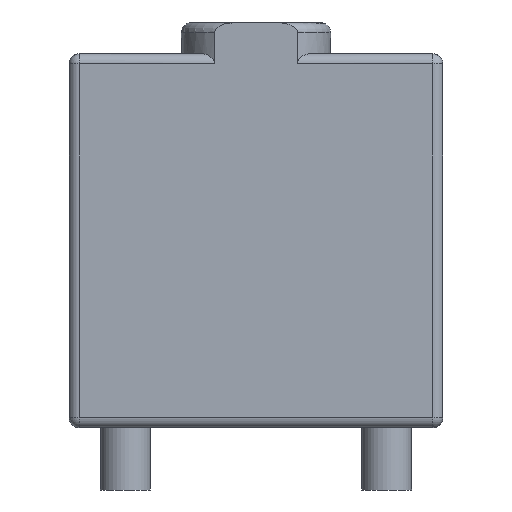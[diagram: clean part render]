
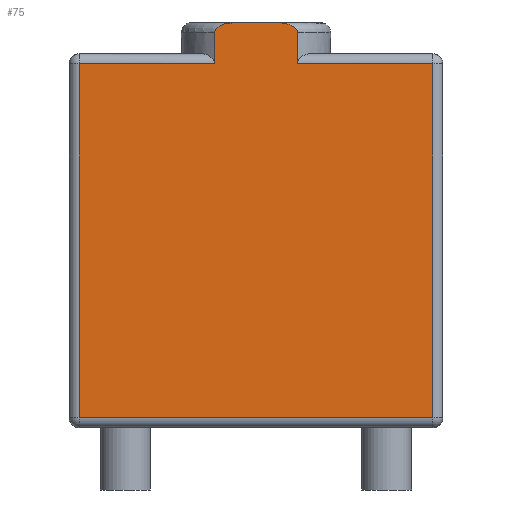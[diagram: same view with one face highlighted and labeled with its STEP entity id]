
A CAD part, front view. The second image highlights one B-rep face of the part: STEP entity #75.
In plain terms, the highlighted planar face has unit normal (0, -1, 0).
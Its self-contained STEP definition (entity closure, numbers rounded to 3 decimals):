
#75 = ADVANCED_FACE( '', ( #345 ), #346, .F. );
#345 = FACE_OUTER_BOUND( '', #975, .T. );
#346 = PLANE( '', #976 );
#975 = EDGE_LOOP( '', ( #1605, #1606, #1607, #1608, #1609, #1610, #1611, #1612, #1613, #1614 ) );
#976 = AXIS2_PLACEMENT_3D( '', #1615, #1616, #1617 );
#1605 = ORIENTED_EDGE( '', *, *, #3537, .F. );
#1606 = ORIENTED_EDGE( '', *, *, #3538, .T. );
#1607 = ORIENTED_EDGE( '', *, *, #3539, .T. );
#1608 = ORIENTED_EDGE( '', *, *, #3540, .T. );
#1609 = ORIENTED_EDGE( '', *, *, #3541, .T. );
#1610 = ORIENTED_EDGE( '', *, *, #3542, .T. );
#1611 = ORIENTED_EDGE( '', *, *, #3543, .T. );
#1612 = ORIENTED_EDGE( '', *, *, #3544, .T. );
#1613 = ORIENTED_EDGE( '', *, *, #3545, .F. );
#1614 = ORIENTED_EDGE( '', *, *, #3546, .T. );
#1615 = CARTESIAN_POINT( '', ( 0., 0., 0. ) );
#1616 = DIRECTION( '', ( 0., 1., 0. ) );
#1617 = DIRECTION( '', ( 0., 0., 1. ) );
#3537 = EDGE_CURVE( '', #4100, #4101, #4102, .T. );
#3538 = EDGE_CURVE( '', #4100, #4103, #4104, .T. );
#3539 = EDGE_CURVE( '', #4103, #4105, #4106, .T. );
#3540 = EDGE_CURVE( '', #4105, #4107, #4108, .F. );
#3541 = EDGE_CURVE( '', #4107, #4109, #4110, .F. );
#3542 = EDGE_CURVE( '', #4109, #4111, #4112, .F. );
#3543 = EDGE_CURVE( '', #4111, #4113, #4114, .F. );
#3544 = EDGE_CURVE( '', #4113, #4115, #4116, .F. );
#3545 = EDGE_CURVE( '', #4117, #4115, #4118, .T. );
#3546 = EDGE_CURVE( '', #4117, #4101, #4119, .T. );
#4100 = VERTEX_POINT( '', #5046 );
#4101 = VERTEX_POINT( '', #5047 );
#4102 = LINE( '', #5048, #5049 );
#4103 = VERTEX_POINT( '', #5050 );
#4104 = B_SPLINE_CURVE_WITH_KNOTS( '', 3, ( #5051, #5052, #5053, #5054, #5055, #5056, #5057, #5058, #5059, #5060, #5061, #5062 ), .UNSPECIFIED., .F., .F., ( 4, 2, 2, 2, 2, 4 ), ( 0., 0.001, 0.001, 0.002, 0.002, 0.002 ), .UNSPECIFIED. );
#4105 = VERTEX_POINT( '', #5063 );
#4106 = LINE( '', #5064, #5065 );
#4107 = VERTEX_POINT( '', #5066 );
#4108 = LINE( '', #5067, #5068 );
#4109 = VERTEX_POINT( '', #5069 );
#4110 = LINE( '', #5070, #5071 );
#4111 = VERTEX_POINT( '', #5072 );
#4112 = LINE( '', #5073, #5074 );
#4113 = VERTEX_POINT( '', #5075 );
#4114 = LINE( '', #5076, #5077 );
#4115 = VERTEX_POINT( '', #5078 );
#4116 = LINE( '', #5079, #5080 );
#4117 = VERTEX_POINT( '', #5081 );
#4118 = LINE( '', #5082, #5083 );
#4119 = B_SPLINE_CURVE_WITH_KNOTS( '', 3, ( #5084, #5085, #5086, #5087, #5088, #5089, #5090, #5091, #5092, #5093, #5094, #5095, #5096, #5097 ), .UNSPECIFIED., .F., .F., ( 4, 2, 2, 2, 2, 2, 4 ), ( 0., 0., 0.001, 0.001, 0.001, 0.002, 0.002 ), .UNSPECIFIED. );
#5046 = CARTESIAN_POINT( '', ( 13.572, 0., 32.5 ) );
#5047 = CARTESIAN_POINT( '', ( 16.428, 0., 32.5 ) );
#5048 = CARTESIAN_POINT( '', ( 11.683, 0., 32.5 ) );
#5049 = VECTOR( '', #6433, 1000. );
#5050 = CARTESIAN_POINT( '', ( 11.683, 0., 31.7 ) );
#5051 = CARTESIAN_POINT( '', ( 13.572, 0., 32.5 ) );
#5052 = CARTESIAN_POINT( '', ( 13.386, 0., 32.5 ) );
#5053 = CARTESIAN_POINT( '', ( 13.2, 0., 32.495 ) );
#5054 = CARTESIAN_POINT( '', ( 12.831, 0., 32.464 ) );
#5055 = CARTESIAN_POINT( '', ( 12.646, 0., 32.437 ) );
#5056 = CARTESIAN_POINT( '', ( 12.287, 0., 32.342 ) );
#5057 = CARTESIAN_POINT( '', ( 12.11, 0., 32.274 ) );
#5058 = CARTESIAN_POINT( '', ( 11.885, 0., 32.109 ) );
#5059 = CARTESIAN_POINT( '', ( 11.816, 0., 32.044 ) );
#5060 = CARTESIAN_POINT( '', ( 11.714, 0., 31.885 ) );
#5061 = CARTESIAN_POINT( '', ( 11.683, 0., 31.794 ) );
#5062 = CARTESIAN_POINT( '', ( 11.683, 0., 31.7 ) );
#5063 = CARTESIAN_POINT( '', ( 11.683, 0., 29.2 ) );
#5064 = CARTESIAN_POINT( '', ( 11.683, 0., 32.5 ) );
#5065 = VECTOR( '', #6434, 1000. );
#5066 = CARTESIAN_POINT( '', ( 0.8, 0., 29.2 ) );
#5067 = CARTESIAN_POINT( '', ( 0., 0., 29.2 ) );
#5068 = VECTOR( '', #6435, 1000. );
#5069 = CARTESIAN_POINT( '', ( 0.8, 0., 0.8 ) );
#5070 = CARTESIAN_POINT( '', ( 0.8, 0., 0. ) );
#5071 = VECTOR( '', #6436, 1000. );
#5072 = CARTESIAN_POINT( '', ( 29.2, 0., 0.8 ) );
#5073 = CARTESIAN_POINT( '', ( 0., 0., 0.8 ) );
#5074 = VECTOR( '', #6437, 1000. );
#5075 = CARTESIAN_POINT( '', ( 29.2, 0., 29.2 ) );
#5076 = CARTESIAN_POINT( '', ( 29.2, 0., 0. ) );
#5077 = VECTOR( '', #6438, 1000. );
#5078 = CARTESIAN_POINT( '', ( 18.317, 0., 29.2 ) );
#5079 = CARTESIAN_POINT( '', ( 0., 0., 29.2 ) );
#5080 = VECTOR( '', #6439, 1000. );
#5081 = CARTESIAN_POINT( '', ( 18.317, 0., 31.7 ) );
#5082 = CARTESIAN_POINT( '', ( 18.317, 0., 32.5 ) );
#5083 = VECTOR( '', #6440, 1000. );
#5084 = CARTESIAN_POINT( '', ( 18.317, 0., 31.7 ) );
#5085 = CARTESIAN_POINT( '', ( 18.317, 0., 31.795 ) );
#5086 = CARTESIAN_POINT( '', ( 18.285, 0., 31.886 ) );
#5087 = CARTESIAN_POINT( '', ( 18.184, 0., 32.043 ) );
#5088 = CARTESIAN_POINT( '', ( 18.115, 0., 32.109 ) );
#5089 = CARTESIAN_POINT( '', ( 17.964, 0., 32.219 ) );
#5090 = CARTESIAN_POINT( '', ( 17.881, 0., 32.264 ) );
#5091 = CARTESIAN_POINT( '', ( 17.711, 0., 32.337 ) );
#5092 = CARTESIAN_POINT( '', ( 17.622, 0., 32.366 ) );
#5093 = CARTESIAN_POINT( '', ( 17.351, 0., 32.438 ) );
#5094 = CARTESIAN_POINT( '', ( 17.168, 0., 32.464 ) );
#5095 = CARTESIAN_POINT( '', ( 16.799, 0., 32.495 ) );
#5096 = CARTESIAN_POINT( '', ( 16.614, 0., 32.5 ) );
#5097 = CARTESIAN_POINT( '', ( 16.428, 0., 32.5 ) );
#6433 = DIRECTION( '', ( 1., 0., 0. ) );
#6434 = DIRECTION( '', ( 0., 0., -1. ) );
#6435 = DIRECTION( '', ( 1., 0., 0. ) );
#6436 = DIRECTION( '', ( 0., 0., 1. ) );
#6437 = DIRECTION( '', ( -1., 0., 0. ) );
#6438 = DIRECTION( '', ( 0., 0., -1. ) );
#6439 = DIRECTION( '', ( 1., 0., 0. ) );
#6440 = DIRECTION( '', ( 0., 0., -1. ) );
